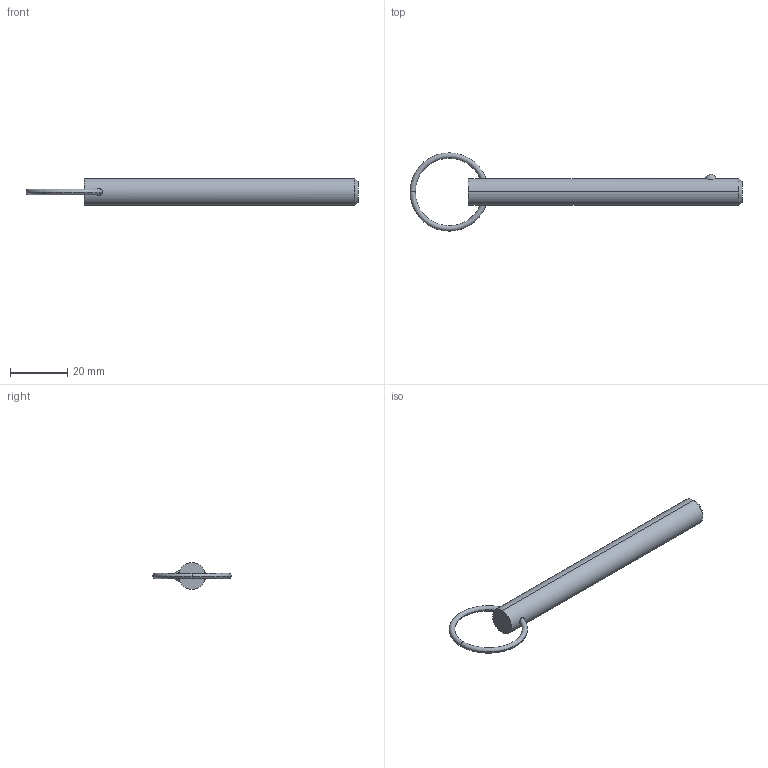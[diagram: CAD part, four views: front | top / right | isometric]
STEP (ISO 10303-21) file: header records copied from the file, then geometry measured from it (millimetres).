
FILE_DESCRIPTION (( 'STEP AP203' ), '1' );
FILE_NAME ('33012.W3730.step', '2024-11-01T14:09:57', ( '' ), ( '' ), 'SwSTEP 2.0', 'SolidWorks 2019', '' );
FILE_SCHEMA (( 'CONFIG_CONTROL_DESIGN' ));
Length unit declared in the file: millimetre
Products named in the file (3): 33012.W3730; Part1_33012.W3730; Part2_33012.W3730
Assembly tree (2 placements, depth 2):
  33012.W3730
    Part1_33012.W3730
    Part2_33012.W3730
Bounding box: 115.59 x 27.28 x 9.4 mm (x, y, z)
Volume: 6781.5 mm3; surface area: 3469.3 mm2
Topology: 2 solids, 2 shells, 16 faces, 31 edges, 18 vertices
Faces by surface type: torus 8, sphere 2, cone 2, cylinder 2, plane 2
Entity records: 849 total; most frequent: CARTESIAN_POINT 206, DIRECTION 88, ORIENTED_EDGE 62, AXIS2_PLACEMENT_3D 42, EDGE_CURVE 31, PERSON_AND_ORGANIZATION 26, CIRCLE 21, LOCAL_TIME 19
